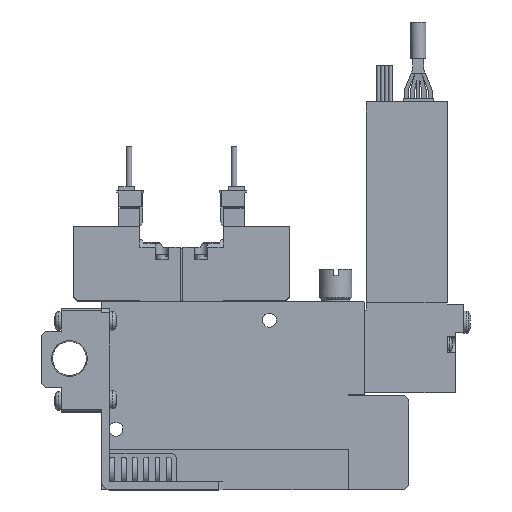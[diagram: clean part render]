
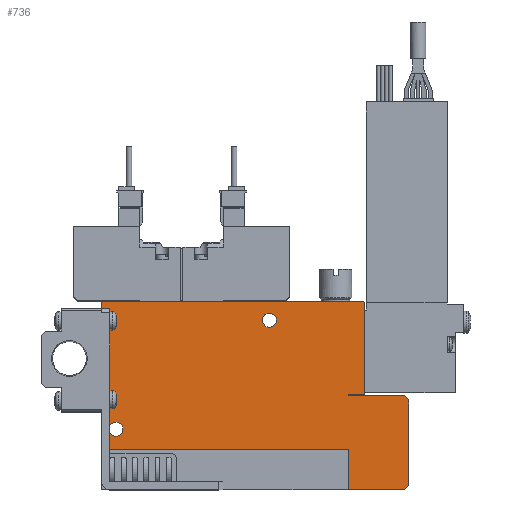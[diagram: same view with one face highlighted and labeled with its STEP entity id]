
A CAD part, top view. The second image highlights one B-rep face of the part: STEP entity #736.
In plain terms, the highlighted planar face has unit normal (0, 0, 1).
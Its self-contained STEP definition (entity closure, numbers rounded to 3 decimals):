
#736=ADVANCED_FACE('',(#1830,#1831,#1832),#1833,.F.);
#1830=FACE_OUTER_BOUND('',#3182,.T.);
#1831=FACE_BOUND('',#3183,.T.);
#1832=FACE_BOUND('',#3184,.T.);
#1833=PLANE('',#3185);
#3182=EDGE_LOOP('',(#6932,#6933,#6934,#6935,#6936,#6937,#6938,#6939,#6940,#6941,#6942,#6943,#6944,#6945));
#3183=EDGE_LOOP('',(#6946));
#3184=EDGE_LOOP('',(#6947));
#3185=AXIS2_PLACEMENT_3D('',#6948,#6949,#6950);
#6932=ORIENTED_EDGE('',*,*,#9740,.T.);
#6933=ORIENTED_EDGE('',*,*,#9542,.F.);
#6934=ORIENTED_EDGE('',*,*,#9741,.F.);
#6935=ORIENTED_EDGE('',*,*,#9742,.T.);
#6936=ORIENTED_EDGE('',*,*,#9743,.T.);
#6937=ORIENTED_EDGE('',*,*,#9744,.T.);
#6938=ORIENTED_EDGE('',*,*,#9566,.T.);
#6939=ORIENTED_EDGE('',*,*,#9745,.T.);
#6940=ORIENTED_EDGE('',*,*,#9712,.T.);
#6941=ORIENTED_EDGE('',*,*,#9746,.T.);
#6942=ORIENTED_EDGE('',*,*,#9747,.T.);
#6943=ORIENTED_EDGE('',*,*,#9574,.T.);
#6944=ORIENTED_EDGE('',*,*,#9662,.T.);
#6945=ORIENTED_EDGE('',*,*,#9702,.T.);
#6946=ORIENTED_EDGE('',*,*,#9731,.F.);
#6947=ORIENTED_EDGE('',*,*,#9729,.F.);
#6948=CARTESIAN_POINT('',(0.0,0.0,5.0));
#6949=DIRECTION('',(0.0,0.0,-1.0));
#6950=DIRECTION('',(0.0,-1.0,0.0));
#9542=EDGE_CURVE('',#11749,#11750,#11751,.T.);
#9566=EDGE_CURVE('',#11796,#11794,#11797,.T.);
#9574=EDGE_CURVE('',#11812,#11810,#11813,.T.);
#9662=EDGE_CURVE('',#11810,#11972,#11974,.T.);
#9702=EDGE_CURVE('',#11972,#12042,#12044,.T.);
#9712=EDGE_CURVE('',#12063,#12061,#12064,.T.);
#9729=EDGE_CURVE('',#12091,#12091,#12092,.T.);
#9731=EDGE_CURVE('',#12095,#12095,#12096,.T.);
#9740=EDGE_CURVE('',#12042,#11750,#12109,.T.);
#9741=EDGE_CURVE('',#12110,#11749,#12111,.T.);
#9742=EDGE_CURVE('',#12110,#12112,#12113,.T.);
#9743=EDGE_CURVE('',#12112,#12114,#12115,.T.);
#9744=EDGE_CURVE('',#12114,#11796,#12116,.T.);
#9745=EDGE_CURVE('',#11794,#12063,#12117,.T.);
#9746=EDGE_CURVE('',#12061,#12118,#12119,.T.);
#9747=EDGE_CURVE('',#12118,#11812,#12120,.T.);
#11749=VERTEX_POINT('',#15351);
#11750=VERTEX_POINT('',#15352);
#11751=LINE('',#15353,#15354);
#11794=VERTEX_POINT('',#15440);
#11796=VERTEX_POINT('',#15443);
#11797=LINE('',#15444,#15445);
#11810=VERTEX_POINT('',#15464);
#11812=VERTEX_POINT('',#15467);
#11813=LINE('',#15468,#15469);
#11972=VERTEX_POINT('',#15761);
#11974=LINE('',#15764,#15765);
#12042=VERTEX_POINT('',#15890);
#12044=LINE('',#15893,#15894);
#12061=VERTEX_POINT('',#15924);
#12063=VERTEX_POINT('',#15927);
#12064=LINE('',#15928,#15929);
#12091=VERTEX_POINT('',#15969);
#12092=CIRCLE('',#15970,1.75);
#12095=VERTEX_POINT('',#15973);
#12096=CIRCLE('',#15974,1.75);
#12109=LINE('',#15991,#15992);
#12110=VERTEX_POINT('',#15993);
#12111=LINE('',#15994,#15995);
#12112=VERTEX_POINT('',#15996);
#12113=LINE('',#15997,#15998);
#12114=VERTEX_POINT('',#15999);
#12115=LINE('',#16000,#16001);
#12116=LINE('',#16002,#16003);
#12117=LINE('',#16004,#16005);
#12118=VERTEX_POINT('',#16006);
#12119=LINE('',#16007,#16008);
#12120=LINE('',#16009,#16010);
#15351=CARTESIAN_POINT('',(61.1,10.1,5.0));
#15352=CARTESIAN_POINT('',(0.0,10.1,5.0));
#15353=CARTESIAN_POINT('',(61.1,10.1,5.0));
#15354=VECTOR('',#18676,1.0);
#15440=CARTESIAN_POINT('',(75.0,23.25,5.0));
#15443=CARTESIAN_POINT('',(76.0,22.25,5.0));
#15444=CARTESIAN_POINT('',(76.0,22.25,5.0));
#15445=VECTOR('',#18707,1.0);
#15464=CARTESIAN_POINT('',(64.8,46.6,5.0));
#15467=CARTESIAN_POINT('',(65.0,46.4,5.0));
#15468=CARTESIAN_POINT('',(65.0,46.4,5.0));
#15469=VECTOR('',#18715,1.0);
#15761=CARTESIAN_POINT('',(0.2,46.6,5.0));
#15764=CARTESIAN_POINT('',(64.8,46.6,5.0));
#15765=VECTOR('',#18835,1.0);
#15890=CARTESIAN_POINT('',(0.0,46.4,5.0));
#15893=CARTESIAN_POINT('',(0.2,46.6,5.0));
#15894=VECTOR('',#18884,1.0);
#15924=CARTESIAN_POINT('',(61.0,23.5,5.0));
#15927=CARTESIAN_POINT('',(61.0,23.25,5.0));
#15928=CARTESIAN_POINT('',(61.0,23.25,5.0));
#15929=VECTOR('',#18901,1.0);
#15969=CARTESIAN_POINT('',(43.25,42.0,5.0));
#15970=AXIS2_PLACEMENT_3D('',#18924,#18925,#18926);
#15973=CARTESIAN_POINT('',(5.25,15.0,5.0));
#15974=AXIS2_PLACEMENT_3D('',#18930,#18931,#18932);
#15991=CARTESIAN_POINT('',(0.0,46.4,5.0));
#15992=VECTOR('',#18949,1.0);
#15993=CARTESIAN_POINT('',(61.1,0.0,5.0));
#15994=CARTESIAN_POINT('',(61.1,0.0,5.0));
#15995=VECTOR('',#18950,1.0);
#15996=CARTESIAN_POINT('',(75.0,0.0,5.0));
#15997=CARTESIAN_POINT('',(0.0,0.0,5.0));
#15998=VECTOR('',#18951,1.0);
#15999=CARTESIAN_POINT('',(76.0,1.0,5.0));
#16000=CARTESIAN_POINT('',(75.0,0.0,5.0));
#16001=VECTOR('',#18952,1.0);
#16002=CARTESIAN_POINT('',(76.0,1.0,5.0));
#16003=VECTOR('',#18953,1.0);
#16004=CARTESIAN_POINT('',(75.0,23.25,5.0));
#16005=VECTOR('',#18954,1.0);
#16006=CARTESIAN_POINT('',(65.0,23.5,5.0));
#16007=CARTESIAN_POINT('',(61.0,23.5,5.0));
#16008=VECTOR('',#18955,1.0);
#16009=CARTESIAN_POINT('',(65.0,23.5,5.0));
#16010=VECTOR('',#18956,1.0);
#18676=DIRECTION('',(-1.0,0.0,0.0));
#18707=DIRECTION('',(-0.707,0.707,0.0));
#18715=DIRECTION('',(-0.707,0.707,0.0));
#18835=DIRECTION('',(-1.0,0.0,0.0));
#18884=DIRECTION('',(-0.707,-0.707,0.0));
#18901=DIRECTION('',(0.0,1.0,0.0));
#18924=CARTESIAN_POINT('',(41.5,42.0,5.0));
#18925=DIRECTION('',(0.0,0.0,1.0));
#18926=DIRECTION('',(1.0,0.0,0.0));
#18930=CARTESIAN_POINT('',(3.5,15.0,5.0));
#18931=DIRECTION('',(0.0,0.0,1.0));
#18932=DIRECTION('',(1.0,0.0,0.0));
#18949=DIRECTION('',(0.0,-1.0,0.0));
#18950=DIRECTION('',(0.0,1.0,0.0));
#18951=DIRECTION('',(1.0,0.0,0.0));
#18952=DIRECTION('',(0.707,0.707,0.0));
#18953=DIRECTION('',(0.0,1.0,0.0));
#18954=DIRECTION('',(-1.0,0.0,0.0));
#18955=DIRECTION('',(1.0,0.,0.0));
#18956=DIRECTION('',(0.0,1.0,0.0));
